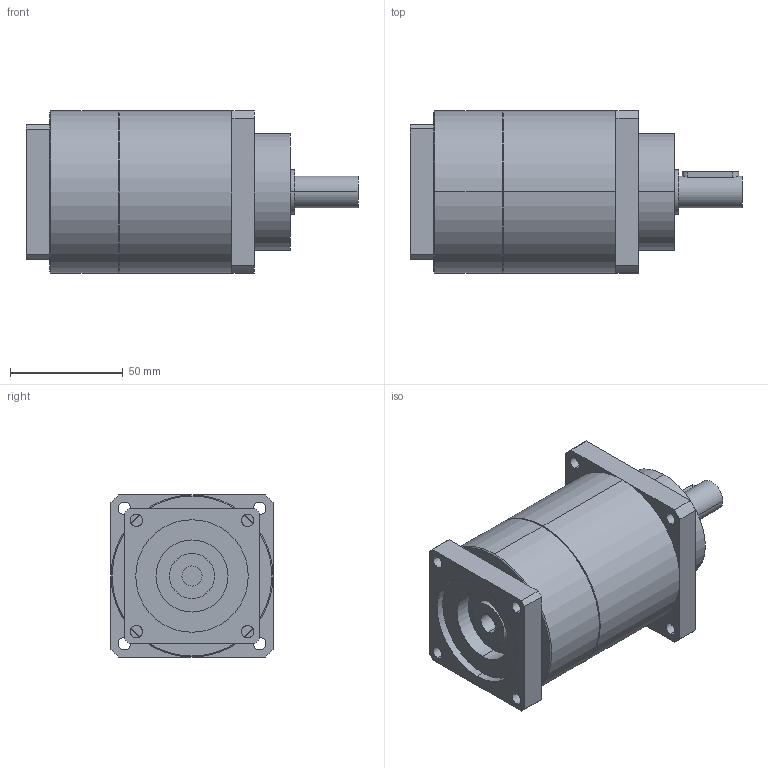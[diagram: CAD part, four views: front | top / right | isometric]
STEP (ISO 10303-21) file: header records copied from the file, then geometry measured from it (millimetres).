
FILE_DESCRIPTION(('CoCreate Modeling STEP Export'),'2;1');
FILE_NAME('GPT75_ig-9-12-16-20-25-28-35-40-50-70-100_14_B5T_9_P20.stp','2014-08-27T13:44:06',(''),(''),'CoCreate Modeling STEP processor for AP214 (Solid Model)','CoCreate Modeling 16.00C 25-Feb-2009 (C) Parametric Technology GmbH','');
FILE_SCHEMA(('AUTOMOTIVE_DESIGN { 1 0 10303 214 1 1 1 1 }'));
Length unit declared in the file: millimetre
Products named in the file (2): GPT75_ig-9-12-16-20-25-28-35-40-50-70-100_14_B5T_9_P20
Assembly tree (1 placements, depth 2):
  GPT75_ig-9-12-16-20-25-28-35-40-50-70-100_14_B5T_9_P20
    GPT75_ig-9-12-16-20-25-28-35-40-50-70-100_14_B5T_9_P20
Bounding box: 147.5 x 72 x 72 mm (x, y, z)
Volume: 442605.2 mm3; surface area: 42219.3 mm2
Topology: 1 solids, 1 shells, 88 faces, 221 edges, 140 vertices
Faces by surface type: cylinder 46, plane 38, cone 4
Entity records: 2651 total; most frequent: CARTESIAN_POINT 739, ORIENTED_EDGE 442, DIRECTION 334, EDGE_CURVE 221, VERTEX_POINT 140, AXIS2_PLACEMENT_3D 123, EDGE_LOOP 109, VECTOR 88
